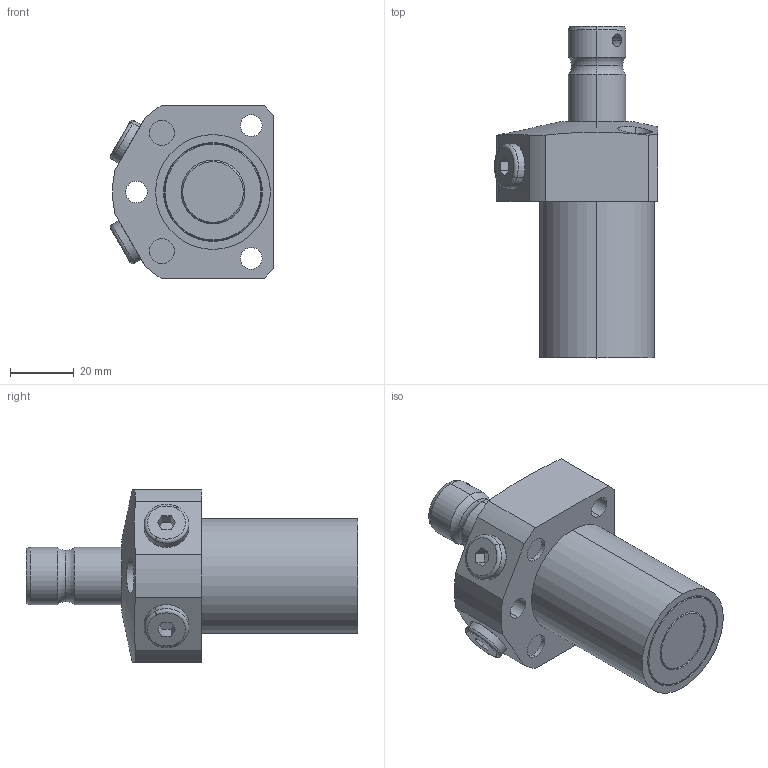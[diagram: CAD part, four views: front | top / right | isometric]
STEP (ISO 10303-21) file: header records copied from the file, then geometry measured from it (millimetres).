
FILE_DESCRIPTION (( 'STEP AP203' ), '1' );
FILE_NAME ('230801-CR.STEP', '2019-06-29T08:07:02', ( '微软用户' ), ( '微软中国' ), 'SwSTEP 2.0', 'SolidWorks 2014', '' );
FILE_SCHEMA (( 'CONFIG_CONTROL_DESIGN' ));
Length unit declared in the file: millimetre
Products named in the file (5): 葩璃 230801.01^230801-CR; 葩璃 4BN-02WD^230801-CR; 葩璃 230801.04^230801-CR; 230801-CR; 葩璃 230801.02^230801-CR
Assembly tree (5 placements, depth 2):
  230801-CR
    葩璃 230801.02^230801-CR
    葩璃 4BN-02WD^230801-CR  x2
    葩璃 230801.01^230801-CR
    葩璃 230801.04^230801-CR
Bounding box: 51.15 x 104 x 54 mm (x, y, z)
Volume: 123031.4 mm3; surface area: 23973.7 mm2
Topology: 5 solids, 5 shells, 131 faces, 276 edges, 172 vertices
Faces by surface type: cylinder 51, plane 46, cone 18, torus 16
Entity records: 3779 total; most frequent: CARTESIAN_POINT 889, DIRECTION 541, ORIENTED_EDGE 444, AXIS2_PLACEMENT_3D 225, EDGE_CURVE 222, VERTEX_POINT 140, EDGE_LOOP 126, CIRCLE 112
